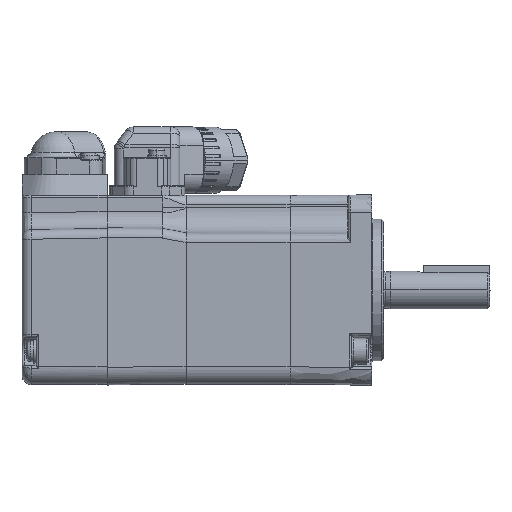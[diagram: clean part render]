
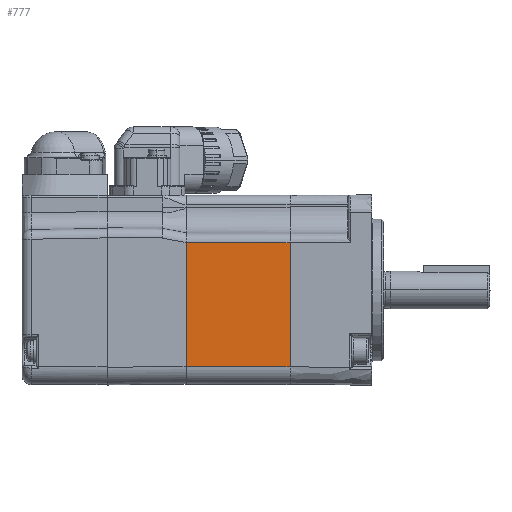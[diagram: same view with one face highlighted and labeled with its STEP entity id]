
A CAD part, top view. The second image highlights one B-rep face of the part: STEP entity #777.
In plain terms, the highlighted planar face has unit normal (0, 0, 1).
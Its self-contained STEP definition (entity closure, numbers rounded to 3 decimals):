
#777=ADVANCED_FACE('',(#5151),#5150,.T.);
#5150=PLANE('',#11628);
#5151=FACE_OUTER_BOUND('',#11629,.T.);
#11625=CARTESIAN_POINT('',(-41.5,12.63,20.));
#11626=DIRECTION('',(0.,0.,1.));
#11627=DIRECTION('',(0.,-1.,0.));
#11628=AXIS2_PLACEMENT_3D('',#11625,#11626,#11627);
#11629=EDGE_LOOP('',(#16793,#16794,#16795,#16796));
#16793=ORIENTED_EDGE('',*,*,#19377,.T.);
#16794=ORIENTED_EDGE('',*,*,#19618,.F.);
#16795=ORIENTED_EDGE('',*,*,#19611,.T.);
#16796=ORIENTED_EDGE('',*,*,#19622,.T.);
#19377=EDGE_CURVE('',#27267,#27309,#27310,.T.);
#19611=EDGE_CURVE('',#28823,#28850,#28857,.T.);
#19618=EDGE_CURVE('',#28823,#27309,#28899,.T.);
#19622=EDGE_CURVE('',#28850,#27267,#28924,.T.);
#27267=VERTEX_POINT('',#37352);
#27309=VERTEX_POINT('',#37430);
#27310=(BOUNDED_CURVE() B_SPLINE_CURVE(3,(#37431,#37432,#37433,#37434,#37435,#37436),.UNSPECIFIED.,.F.,.F.) B_SPLINE_CURVE_WITH_KNOTS((4,2,4),(0.,0.017,0.027),.UNSPECIFIED.) CURVE() GEOMETRIC_REPRESENTATION_ITEM() RATIONAL_B_SPLINE_CURVE((1.,1.,1.,1.,1.,1.)) REPRESENTATION_ITEM('') );
#28823=VERTEX_POINT('',#38607);
#28850=VERTEX_POINT('',#38624);
#28857=LINE('',#38629,#38630);
#28899=LINE('',#38660,#38661);
#28924=LINE('',#38684,#38685);
#37352=CARTESIAN_POINT('',(-17.3,-16.3,20.));
#37430=CARTESIAN_POINT('',(-17.3,10.,20.));
#37431=CARTESIAN_POINT('',(-17.3,-16.3,20.));
#37432=CARTESIAN_POINT('',(-17.3,-10.867,20.));
#37433=CARTESIAN_POINT('',(-17.3,-5.433,20.));
#37434=CARTESIAN_POINT('',(-17.3,3.333,20.));
#37435=CARTESIAN_POINT('',(-17.3,6.667,20.));
#37436=CARTESIAN_POINT('',(-17.3,10.,20.));
#38607=CARTESIAN_POINT('',(-39.3,10.,20.));
#38624=CARTESIAN_POINT('',(-39.3,-16.3,20.));
#38629=CARTESIAN_POINT('',(-39.3,10.,20.));
#38630=VECTOR('',#38631,26.3);
#38631=DIRECTION('',(0.,-1.,0.));
#38660=CARTESIAN_POINT('',(-39.3,10.,20.));
#38661=VECTOR('',#38662,22.);
#38662=DIRECTION('',(1.,0.,0.));
#38684=CARTESIAN_POINT('',(-39.3,-16.3,20.));
#38685=VECTOR('',#38686,22.);
#38686=DIRECTION('',(1.,0.,0.));
